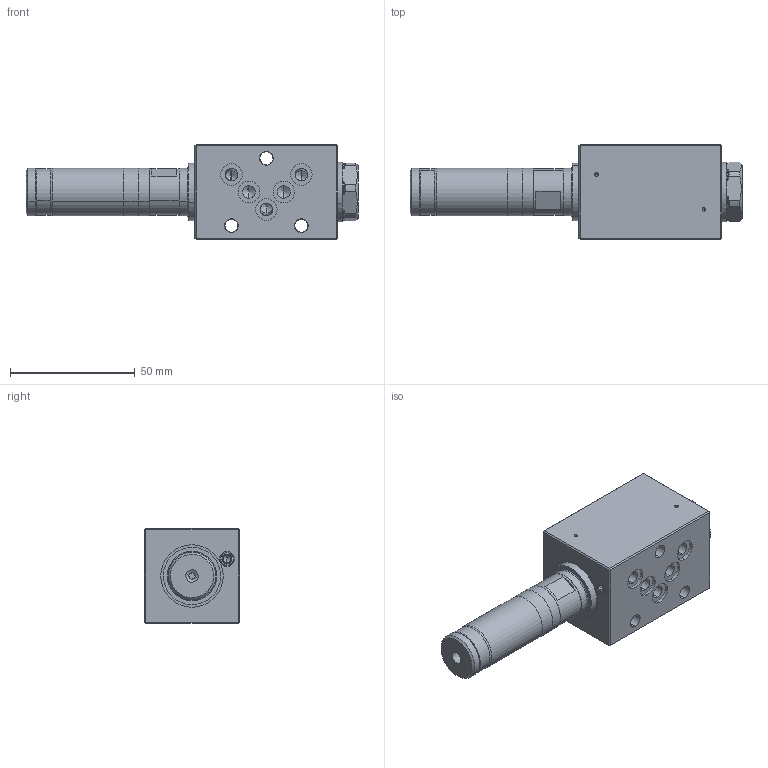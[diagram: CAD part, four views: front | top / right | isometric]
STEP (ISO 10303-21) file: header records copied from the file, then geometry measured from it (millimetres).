
FILE_DESCRIPTION (( 'STEP AP203' ), '1' );
FILE_NAME ('WDPFA04-4_2-Aside.step', '2013-07-08T11:08:26', ( 'Wandfluh AG' ), ( 'Wandfluh AG' ), 'SwSTEP 2.0', 'SolidWorks 2012', '' );
FILE_SCHEMA (( 'CONFIG_CONTROL_DESIGN' ));
Length unit declared in the file: millimetre
Products named in the file (1): WDPFA04-4_2-Aside
Bounding box: 133 x 38 x 38 mm (x, y, z)
Volume: 93522 mm3; surface area: 29703.6 mm2
Topology: 9 solids, 9 shells, 1097 faces, 2943 edges, 1892 vertices
Faces by surface type: plane 644, cylinder 300, cone 83, torus 46, bspline 24
Entity records: 36186 total; most frequent: CARTESIAN_POINT 8128, DIRECTION 5999, ORIENTED_EDGE 5842, EDGE_CURVE 2921, AXIS2_PLACEMENT_3D 2139, VERTEX_POINT 1892, LINE 1721, VECTOR 1721
